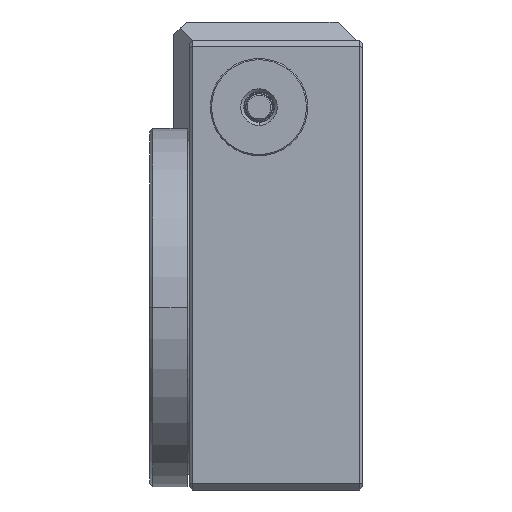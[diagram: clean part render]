
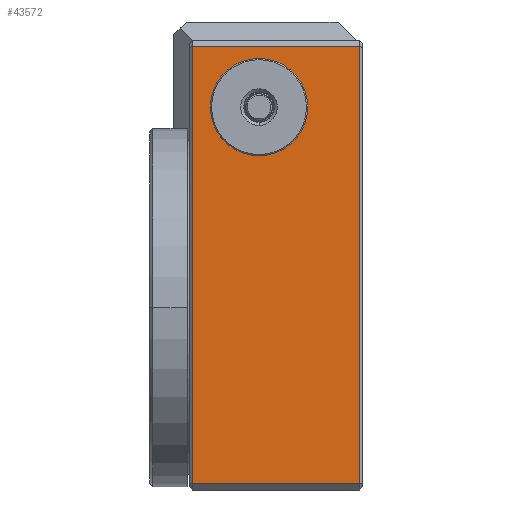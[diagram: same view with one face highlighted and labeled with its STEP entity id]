
A CAD part, left-side view. The second image highlights one B-rep face of the part: STEP entity #43572.
In plain terms, the highlighted planar face has unit normal (-1, 0, 0).
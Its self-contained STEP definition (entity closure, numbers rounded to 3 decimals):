
#937 = AXIS2_PLACEMENT_3D ( 'NONE', #2138, #44772, #18014 ) ;
#1835 = VECTOR ( 'NONE', #38885, 1000. ) ;
#2138 = CARTESIAN_POINT ( 'NONE',  ( -44.823, 22.897, 111. ) ) ;
#3288 = CARTESIAN_POINT ( 'NONE',  ( -44.823, 11.397, 100. ) ) ;
#3615 = DIRECTION ( 'NONE',  ( -1., 0., 0. ) ) ;
#4409 = DIRECTION ( 'NONE',  ( 0., 0., 1. ) ) ;
#5916 = CIRCLE ( 'NONE', #59989, 5.966 ) ;
#7003 = DIRECTION ( 'NONE',  ( 0., 1., 0. ) ) ;
#7725 = LINE ( 'NONE', #28339, #1835 ) ;
#9887 = DIRECTION ( 'NONE',  ( 0., -1., 0. ) ) ;
#11595 = EDGE_LOOP ( 'NONE', ( #41703, #63533 ) ) ;
#12387 = CARTESIAN_POINT ( 'NONE',  ( -44.823, 22.897, 38. ) ) ;
#12593 = ORIENTED_EDGE ( 'NONE', *, *, #42657, .F. ) ;
#16019 = CARTESIAN_POINT ( 'NONE',  ( -44.823, 11.397, 105.966 ) ) ;
#18014 = DIRECTION ( 'NONE',  ( 0., 0., -1. ) ) ;
#18277 = LINE ( 'NONE', #66408, #27871 ) ;
#20963 = CARTESIAN_POINT ( 'NONE',  ( -44.823, -5.103, 110. ) ) ;
#21869 = CARTESIAN_POINT ( 'NONE',  ( -44.823, 11.397, 100. ) ) ;
#22307 = VECTOR ( 'NONE', #9887, 1000. ) ;
#22903 = LINE ( 'NONE', #12387, #58233 ) ;
#23097 = FACE_OUTER_BOUND ( 'NONE', #55201, .T. ) ;
#25417 = VERTEX_POINT ( 'NONE', #47260 ) ;
#27295 = DIRECTION ( 'NONE',  ( 0., 0., 1. ) ) ;
#27871 = VECTOR ( 'NONE', #4409, 1000. ) ;
#27895 = VERTEX_POINT ( 'NONE', #34624 ) ;
#28339 = CARTESIAN_POINT ( 'NONE',  ( -44.823, -5.103, 111. ) ) ;
#28704 = EDGE_CURVE ( 'NONE', #25417, #27895, #22903, .T. ) ;
#33095 = EDGE_CURVE ( 'NONE', #62448, #39315, #65608, .T. ) ;
#34624 = CARTESIAN_POINT ( 'NONE',  ( -44.823, 22.397, 38. ) ) ;
#36223 = VERTEX_POINT ( 'NONE', #20963 ) ;
#38133 = EDGE_CURVE ( 'NONE', #39315, #62448, #5916, .T. ) ;
#38779 = ORIENTED_EDGE ( 'NONE', *, *, #55900, .F. ) ;
#38885 = DIRECTION ( 'NONE',  ( 0., 0., -1. ) ) ;
#39045 = FACE_BOUND ( 'NONE', #11595, .T. ) ;
#39315 = VERTEX_POINT ( 'NONE', #16019 ) ;
#40816 = EDGE_CURVE ( 'NONE', #42489, #36223, #46468, .T. ) ;
#41054 = CARTESIAN_POINT ( 'NONE',  ( -44.823, 22.897, 110. ) ) ;
#41589 = ORIENTED_EDGE ( 'NONE', *, *, #28704, .F. ) ;
#41703 = ORIENTED_EDGE ( 'NONE', *, *, #38133, .F. ) ;
#42489 = VERTEX_POINT ( 'NONE', #57657 ) ;
#42657 = EDGE_CURVE ( 'NONE', #27895, #42489, #18277, .T. ) ;
#43572 = ADVANCED_FACE ( 'NONE', ( #39045, #23097 ), #54303, .F. ) ;
#44772 = DIRECTION ( 'NONE',  ( 1., 0., 0. ) ) ;
#45808 = ORIENTED_EDGE ( 'NONE', *, *, #40816, .F. ) ;
#46468 = LINE ( 'NONE', #41054, #22307 ) ;
#47260 = CARTESIAN_POINT ( 'NONE',  ( -44.823, -5.103, 38. ) ) ;
#52468 = AXIS2_PLACEMENT_3D ( 'NONE', #3288, #3615, #54455 ) ;
#54101 = CARTESIAN_POINT ( 'NONE',  ( -44.823, 11.397, 94.034 ) ) ;
#54303 = PLANE ( 'NONE',  #937 ) ;
#54455 = DIRECTION ( 'NONE',  ( 0., 0., 1. ) ) ;
#55201 = EDGE_LOOP ( 'NONE', ( #41589, #38779, #45808, #12593 ) ) ;
#55900 = EDGE_CURVE ( 'NONE', #36223, #25417, #7725, .T. ) ;
#57657 = CARTESIAN_POINT ( 'NONE',  ( -44.823, 22.397, 110. ) ) ;
#58233 = VECTOR ( 'NONE', #7003, 1000. ) ;
#59989 = AXIS2_PLACEMENT_3D ( 'NONE', #21869, #63261, #27295 ) ;
#62448 = VERTEX_POINT ( 'NONE', #54101 ) ;
#63261 = DIRECTION ( 'NONE',  ( -1., 0., 0. ) ) ;
#63533 = ORIENTED_EDGE ( 'NONE', *, *, #33095, .F. ) ;
#65608 = CIRCLE ( 'NONE', #52468, 5.966 ) ;
#66408 = CARTESIAN_POINT ( 'NONE',  ( -44.823, 22.397, 111. ) ) ;
